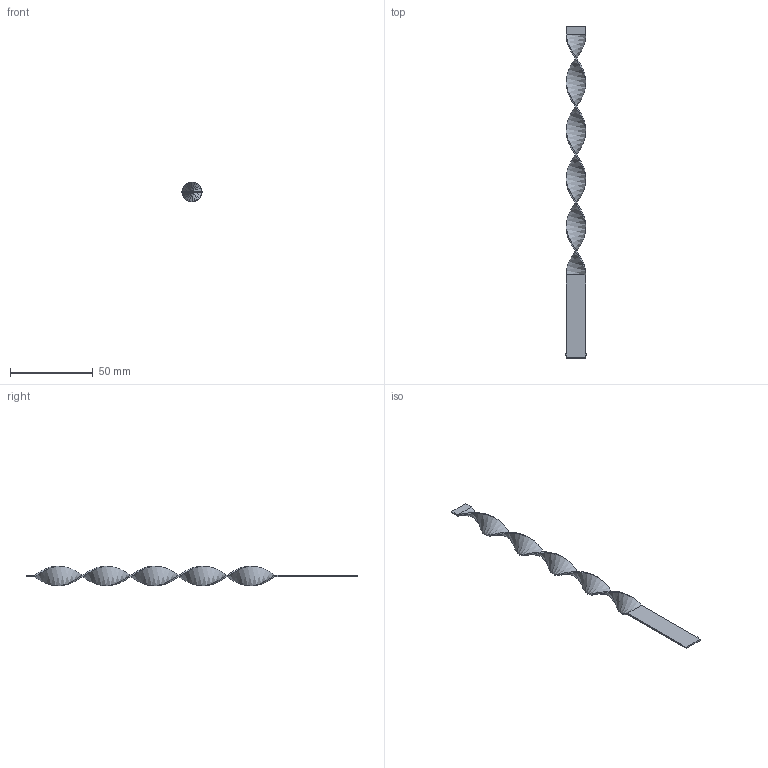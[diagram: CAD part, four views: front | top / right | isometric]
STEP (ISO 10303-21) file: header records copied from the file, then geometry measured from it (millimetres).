
FILE_DESCRIPTION (( 'STEP AP203' ), '1' );
FILE_NAME ('RLAS-12SMx200.STEP', '2015-12-10T14:05:10', ( 'Balzi' ), ( '' ), 'SwSTEP 2.0', 'SolidWorks 2015', '' );
FILE_SCHEMA (( 'CONFIG_CONTROL_DESIGN' ));
Length unit declared in the file: millimetre
Products named in the file (1): RLAS-12SMx200
Bounding box: 12.4 x 200 x 11.84 mm (x, y, z)
Volume: 2360.9 mm3; surface area: 5367.3 mm2
Topology: 1 solids, 1 shells, 22 faces, 52 edges, 32 vertices
Faces by surface type: plane 18, bspline 4
Entity records: 2349 total; most frequent: CARTESIAN_POINT 1803, ORIENTED_EDGE 104, DIRECTION 82, EDGE_CURVE 52, LINE 44, VECTOR 44, VERTEX_POINT 32, ADVANCED_FACE 22
